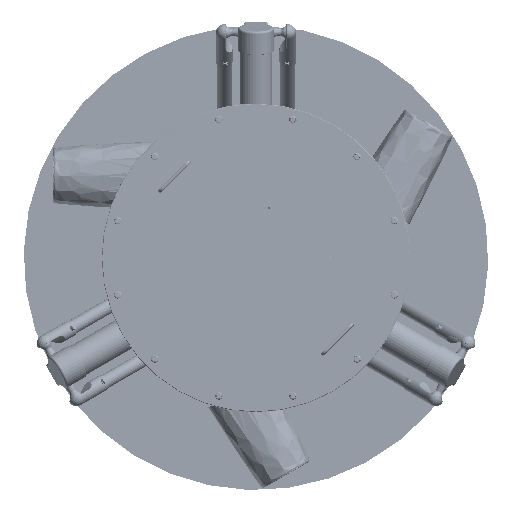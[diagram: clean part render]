
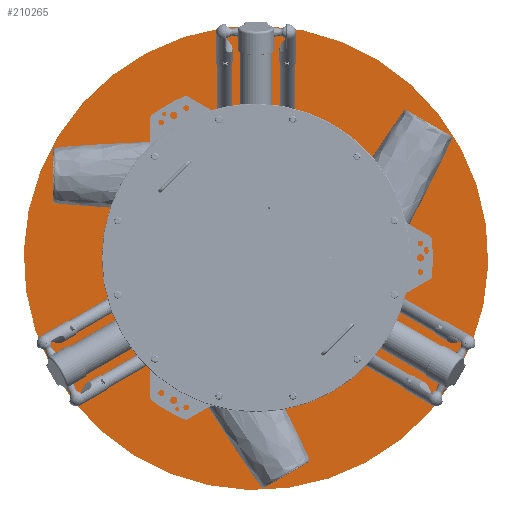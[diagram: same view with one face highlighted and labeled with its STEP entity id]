
A CAD part, front view. The second image highlights one B-rep face of the part: STEP entity #210265.
In plain terms, the highlighted planar face has unit normal (0, -1, 0) as drawn and (0, 1, 0) by its records, which use the part's own axes.
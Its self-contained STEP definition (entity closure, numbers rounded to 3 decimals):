
#9867 = CIRCLE ( 'NONE', #254374, 565. ) ;
#50311 = ORIENTED_EDGE ( 'NONE', *, *, #193504, .F. ) ;
#74555 = EDGE_LOOP ( 'NONE', ( #100444, #50311 ) ) ;
#80804 = DIRECTION ( 'NONE',  ( 0., -1., 0. ) ) ;
#86185 = CARTESIAN_POINT ( 'NONE',  ( 0., 380., 0. ) ) ;
#92060 = CARTESIAN_POINT ( 'NONE',  ( 0., 380., -565. ) ) ;
#93610 = AXIS2_PLACEMENT_3D ( 'NONE', #86185, #351050, #174915 ) ;
#100444 = ORIENTED_EDGE ( 'NONE', *, *, #111243, .F. ) ;
#111243 = EDGE_CURVE ( 'NONE', #281938, #111613, #9867, .T. ) ;
#111613 = VERTEX_POINT ( 'NONE', #164920 ) ;
#115110 = FACE_OUTER_BOUND ( 'NONE', #74555, .T. ) ;
#142157 = DIRECTION ( 'NONE',  ( 0., -1., 0. ) ) ;
#164920 = CARTESIAN_POINT ( 'NONE',  ( 0., 380., 565. ) ) ;
#174915 = DIRECTION ( 'NONE',  ( 0., 0., 1. ) ) ;
#193504 = EDGE_CURVE ( 'NONE', #111613, #281938, #291835, .T. ) ;
#201890 = PLANE ( 'NONE',  #93610 ) ;
#210265 = ADVANCED_FACE ( 'NONE', ( #115110 ), #201890, .T. ) ;
#248506 = AXIS2_PLACEMENT_3D ( 'NONE', #256844, #80804, #286420 ) ;
#254374 = AXIS2_PLACEMENT_3D ( 'NONE', #318259, #142157, #347891 ) ;
#256844 = CARTESIAN_POINT ( 'NONE',  ( 0., 380., 0. ) ) ;
#281938 = VERTEX_POINT ( 'NONE', #92060 ) ;
#286420 = DIRECTION ( 'NONE',  ( 0., 0., -1. ) ) ;
#291835 = CIRCLE ( 'NONE', #248506, 565. ) ;
#318259 = CARTESIAN_POINT ( 'NONE',  ( 0., 380., 0. ) ) ;
#347891 = DIRECTION ( 'NONE',  ( 0., 0., -1. ) ) ;
#351050 = DIRECTION ( 'NONE',  ( 0., 1., 0. ) ) ;
